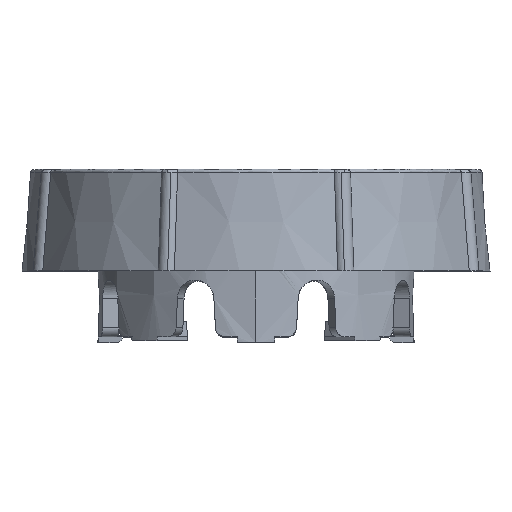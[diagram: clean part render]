
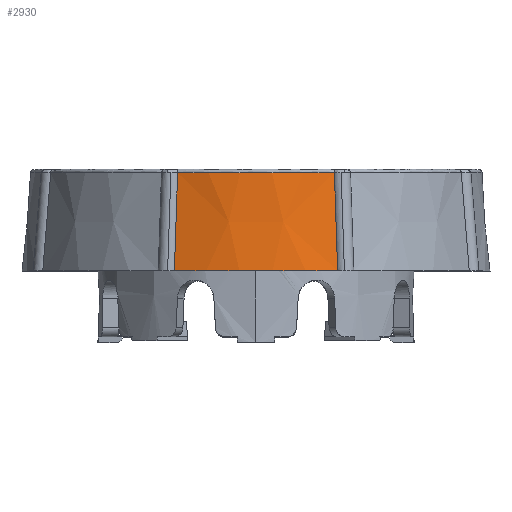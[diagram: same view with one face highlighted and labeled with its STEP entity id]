
A CAD part, top view. The second image highlights one B-rep face of the part: STEP entity #2930.
In plain terms, the highlighted conical face has half-angle 5 degrees and reference radius 12.472 mm.
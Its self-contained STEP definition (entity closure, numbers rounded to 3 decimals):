
#589 = DIRECTION ( 'NONE',  ( 0., -1., 0. ) ) ;
#802 = EDGE_CURVE ( 'NONE', #2621, #5684, #4122, .T. ) ;
#820 = ORIENTED_EDGE ( 'NONE', *, *, #7781, .T. ) ;
#985 = CARTESIAN_POINT ( 'NONE',  ( 0., 4.717, 0. ) ) ;
#1111 = CARTESIAN_POINT ( 'NONE',  ( 4.166, 4.717, 11.271 ) ) ;
#1113 = B_SPLINE_CURVE_WITH_KNOTS ( 'NONE', 3,
 ( #5521, #2753, #4831, #1272 ),
 .UNSPECIFIED., .F., .F.,
 ( 4, 4 ),
 ( 0., 0. ),
 .UNSPECIFIED. ) ;
#1121 = VERTEX_POINT ( 'NONE', #5783 ) ;
#1261 = EDGE_CURVE ( 'NONE', #1121, #7796, #3473, .T. ) ;
#1272 = CARTESIAN_POINT ( 'NONE',  ( -4.166, 4.717, 11.271 ) ) ;
#1382 = CARTESIAN_POINT ( 'NONE',  ( 0., -0.5, 0. ) ) ;
#1820 = CARTESIAN_POINT ( 'NONE',  ( -4.341, -0.5, 11.693 ) ) ;
#2018 = CONICAL_SURFACE ( 'NONE', #6805, 12.472, 0.087 ) ;
#2126 = AXIS2_PLACEMENT_3D ( 'NONE', #5180, #4626, #8028 ) ;
#2565 = EDGE_CURVE ( 'NONE', #5264, #5684, #3974, .T. ) ;
#2621 = VERTEX_POINT ( 'NONE', #2688 ) ;
#2647 = CARTESIAN_POINT ( 'NONE',  ( -4.293, 0.903, 11.579 ) ) ;
#2663 = CARTESIAN_POINT ( 'NONE',  ( 4.318, 0.164, 11.639 ) ) ;
#2688 = CARTESIAN_POINT ( 'NONE',  ( 4.166, 4.706, 11.272 ) ) ;
#2753 = CARTESIAN_POINT ( 'NONE',  ( -4.166, 4.71, 11.271 ) ) ;
#2774 = DIRECTION ( 'NONE',  ( 0., 0., -1. ) ) ;
#2871 = VERTEX_POINT ( 'NONE', #3915 ) ;
#2930 = ADVANCED_FACE ( 'NONE', ( #7645 ), #2018, .T. ) ;
#3267 = CARTESIAN_POINT ( 'NONE',  ( -4.199, 3.71, 11.352 ) ) ;
#3285 = CARTESIAN_POINT ( 'NONE',  ( 4.213, 3.303, 11.385 ) ) ;
#3300 = CARTESIAN_POINT ( 'NONE',  ( 4.166, 4.714, 11.271 ) ) ;
#3314 = EDGE_CURVE ( 'NONE', #7796, #2621, #8083, .T. ) ;
#3359 = CARTESIAN_POINT ( 'NONE',  ( -4.177, 4.374, 11.299 ) ) ;
#3473 = CIRCLE ( 'NONE', #2126, 12.472 ) ;
#3915 = CARTESIAN_POINT ( 'NONE',  ( -4.166, 4.706, 11.272 ) ) ;
#3974 = CIRCLE ( 'NONE', #5171, 12.016 ) ;
#3976 = CARTESIAN_POINT ( 'NONE',  ( 4.341, -0.5, 11.693 ) ) ;
#4122 = B_SPLINE_CURVE_WITH_KNOTS ( 'NONE', 3,
 ( #6158, #8334, #3300, #1111 ),
 .UNSPECIFIED., .F., .F.,
 ( 4, 4 ),
 ( 0., 0. ),
 .UNSPECIFIED. ) ;
#4566 = ORIENTED_EDGE ( 'NONE', *, *, #2565, .F. ) ;
#4626 = DIRECTION ( 'NONE',  ( 0., 1., 0. ) ) ;
#4831 = CARTESIAN_POINT ( 'NONE',  ( -4.166, 4.714, 11.271 ) ) ;
#5151 = CARTESIAN_POINT ( 'NONE',  ( 4.166, 4.717, 11.271 ) ) ;
#5171 = AXIS2_PLACEMENT_3D ( 'NONE', #985, #6123, #8081 ) ;
#5180 = CARTESIAN_POINT ( 'NONE',  ( 0., -0.5, 0. ) ) ;
#5264 = VERTEX_POINT ( 'NONE', #8420 ) ;
#5521 = CARTESIAN_POINT ( 'NONE',  ( -4.166, 4.706, 11.272 ) ) ;
#5649 = ORIENTED_EDGE ( 'NONE', *, *, #1261, .T. ) ;
#5684 = VERTEX_POINT ( 'NONE', #5151 ) ;
#5783 = CARTESIAN_POINT ( 'NONE',  ( -4.341, -0.5, 11.693 ) ) ;
#6123 = DIRECTION ( 'NONE',  ( 0., 1., 0. ) ) ;
#6158 = CARTESIAN_POINT ( 'NONE',  ( 4.166, 4.706, 11.272 ) ) ;
#6216 = CARTESIAN_POINT ( 'NONE',  ( -4.246, 2.307, 11.466 ) ) ;
#6283 = CARTESIAN_POINT ( 'NONE',  ( 4.341, -0.5, 11.693 ) ) ;
#6805 = AXIS2_PLACEMENT_3D ( 'NONE', #1382, #589, #2774 ) ;
#7004 = CARTESIAN_POINT ( 'NONE',  ( -4.166, 4.706, 11.272 ) ) ;
#7080 = ORIENTED_EDGE ( 'NONE', *, *, #7318, .F. ) ;
#7109 = B_SPLINE_CURVE_WITH_KNOTS ( 'NONE', 3,
 ( #7004, #3359, #9141, #3267, #6216, #2647, #1820 ),
 .UNSPECIFIED., .F., .F.,
 ( 4, 3, 4 ),
 ( 0., 0.001, 0.005 ),
 .UNSPECIFIED. ) ;
#7318 = EDGE_CURVE ( 'NONE', #2871, #5264, #1113, .T. ) ;
#7630 = CARTESIAN_POINT ( 'NONE',  ( 4.26, 1.9, 11.499 ) ) ;
#7645 = FACE_OUTER_BOUND ( 'NONE', #8140, .T. ) ;
#7679 = CARTESIAN_POINT ( 'NONE',  ( 4.307, 0.496, 11.612 ) ) ;
#7781 = EDGE_CURVE ( 'NONE', #2871, #1121, #7109, .T. ) ;
#7796 = VERTEX_POINT ( 'NONE', #3976 ) ;
#8028 = DIRECTION ( 'NONE',  ( 0., 0., -1. ) ) ;
#8081 = DIRECTION ( 'NONE',  ( 1., 0., 0.005 ) ) ;
#8083 = B_SPLINE_CURVE_WITH_KNOTS ( 'NONE', 3,
 ( #6283, #9064, #2663, #7679, #7630, #3285, #8369 ),
 .UNSPECIFIED., .F., .F.,
 ( 4, 3, 4 ),
 ( 0., 0.001, 0.005 ),
 .UNSPECIFIED. ) ;
#8140 = EDGE_LOOP ( 'NONE', ( #4566, #7080, #820, #5649, #8708, #8165 ) ) ;
#8165 = ORIENTED_EDGE ( 'NONE', *, *, #802, .T. ) ;
#8334 = CARTESIAN_POINT ( 'NONE',  ( 4.166, 4.71, 11.271 ) ) ;
#8369 = CARTESIAN_POINT ( 'NONE',  ( 4.166, 4.706, 11.272 ) ) ;
#8420 = CARTESIAN_POINT ( 'NONE',  ( -4.166, 4.717, 11.271 ) ) ;
#8708 = ORIENTED_EDGE ( 'NONE', *, *, #3314, .T. ) ;
#9064 = CARTESIAN_POINT ( 'NONE',  ( 4.329, -0.168, 11.666 ) ) ;
#9141 = CARTESIAN_POINT ( 'NONE',  ( -4.188, 4.042, 11.325 ) ) ;
